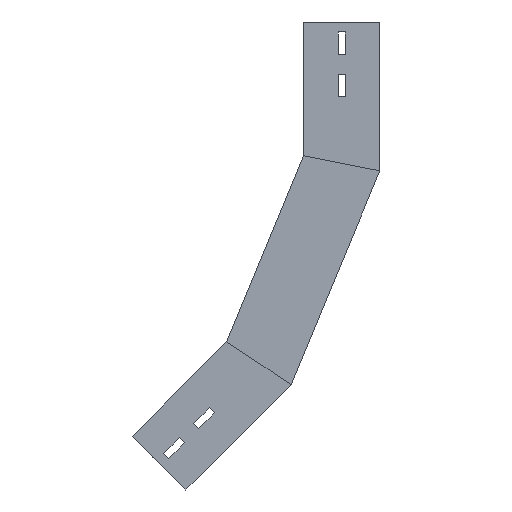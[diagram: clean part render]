
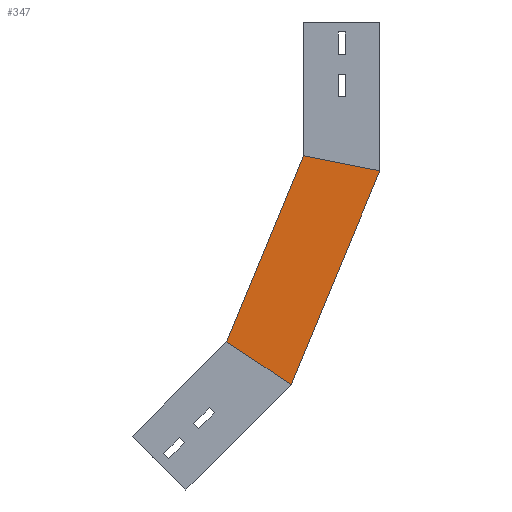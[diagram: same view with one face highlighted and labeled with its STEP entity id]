
A CAD part, left-side view. The second image highlights one B-rep face of the part: STEP entity #347.
In plain terms, the highlighted planar face has unit normal (-1, 0, 0) as drawn and (1, 0, 0) by its records, which use the part's own axes.
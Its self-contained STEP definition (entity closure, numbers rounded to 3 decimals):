
#55 = LINE ( 'NONE', #522, #601 ) ;
#107 = CARTESIAN_POINT ( 'NONE',  ( 0., 0., -146.6 ) ) ;
#195 = VECTOR ( 'NONE', #445, 1000. ) ;
#201 = EDGE_CURVE ( 'NONE', #319, #223, #618, .T. ) ;
#223 = VERTEX_POINT ( 'NONE', #1332 ) ;
#260 = ORIENTED_EDGE ( 'NONE', *, *, #1130, .F. ) ;
#319 = VERTEX_POINT ( 'NONE', #320 ) ;
#320 = CARTESIAN_POINT ( 'NONE',  ( 0., 75., -131.682 ) ) ;
#347 = ADVANCED_FACE ( 'NONE', ( #550 ), #1122, .F. ) ;
#383 = AXIS2_PLACEMENT_3D ( 'NONE', #107, #918, #448 ) ;
#445 = DIRECTION ( 'NONE',  ( 0., -0.831, -0.556 ) ) ;
#448 = DIRECTION ( 'NONE',  ( 0., 0., 1. ) ) ;
#522 = CARTESIAN_POINT ( 'NONE',  ( 0., 69.291, -117.899 ) ) ;
#550 = FACE_OUTER_BOUND ( 'NONE', #1172, .T. ) ;
#601 = VECTOR ( 'NONE', #873, 1000. ) ;
#618 = LINE ( 'NONE', #877, #695 ) ;
#632 = EDGE_CURVE ( 'NONE', #223, #973, #732, .T. ) ;
#637 = ORIENTED_EDGE ( 'NONE', *, *, #632, .T. ) ;
#695 = VECTOR ( 'NONE', #1090, 1000. ) ;
#732 = LINE ( 'NONE', #1450, #959 ) ;
#807 = VERTEX_POINT ( 'NONE', #1136 ) ;
#854 = DIRECTION ( 'NONE',  ( 0., 0.383, -0.924 ) ) ;
#873 = DIRECTION ( 'NONE',  ( 0., 0.383, -0.924 ) ) ;
#877 = CARTESIAN_POINT ( 'NONE',  ( 0., 28.051, -141.02 ) ) ;
#918 = DIRECTION ( 'NONE',  ( -1., 0., 0. ) ) ;
#959 = VECTOR ( 'NONE', #854, 1000. ) ;
#973 = VERTEX_POINT ( 'NONE', #1440 ) ;
#1090 = DIRECTION ( 'NONE',  ( 0., -0.981, -0.195 ) ) ;
#1091 = EDGE_CURVE ( 'NONE', #319, #807, #55, .T. ) ;
#1122 = PLANE ( 'NONE',  #383 ) ;
#1130 = EDGE_CURVE ( 'NONE', #807, #973, #1215, .T. ) ;
#1136 = CARTESIAN_POINT ( 'NONE',  ( 0., 150.91, -314.945 ) ) ;
#1146 = ORIENTED_EDGE ( 'NONE', *, *, #1091, .F. ) ;
#1172 = EDGE_LOOP ( 'NONE', ( #1146, #1218, #637, #260 ) ) ;
#1215 = LINE ( 'NONE', #1241, #195 ) ;
#1218 = ORIENTED_EDGE ( 'NONE', *, *, #201, .T. ) ;
#1241 = CARTESIAN_POINT ( 'NONE',  ( 0., 124.345, -332.696 ) ) ;
#1332 = CARTESIAN_POINT ( 'NONE',  ( 0., 0., -146.6 ) ) ;
#1440 = CARTESIAN_POINT ( 'NONE',  ( 0., 87.328, -357.429 ) ) ;
#1450 = CARTESIAN_POINT ( 'NONE',  ( 0., 0., -146.6 ) ) ;
